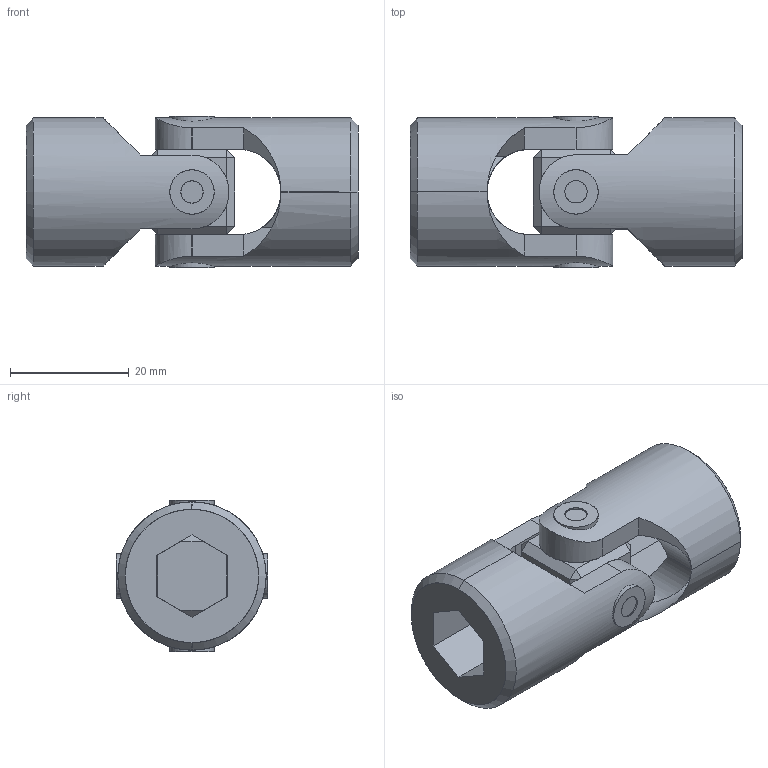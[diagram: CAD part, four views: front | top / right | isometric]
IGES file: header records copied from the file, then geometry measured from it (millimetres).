
Start section: SolidWorks IGES file using analytic representation for surfaces
Global section: file name: C:\Users\IanO\Desktop\R3690_v2\R3690_v2_20231020_IGES\R3690.012-HB.igs; native system: SolidWorks 2019; preprocessor: SolidWorks 2019; author: IanO; date: 231020.152704; units: millimetre
Bounding box: 56 x 25.5 x 25.5 mm (x, y, z)
Surface area: 10036.2 mm2 (no closed solid volume)
Topology: 0 solids, 0 shells, 112 faces, 2052 edges, 2052 vertices
Faces by surface type: bspline 68, revolution 44
